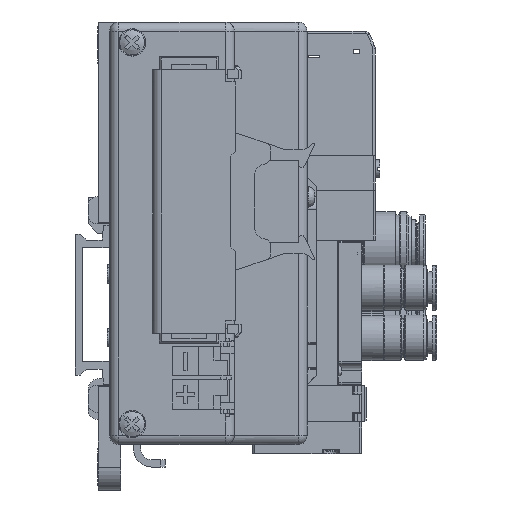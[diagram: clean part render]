
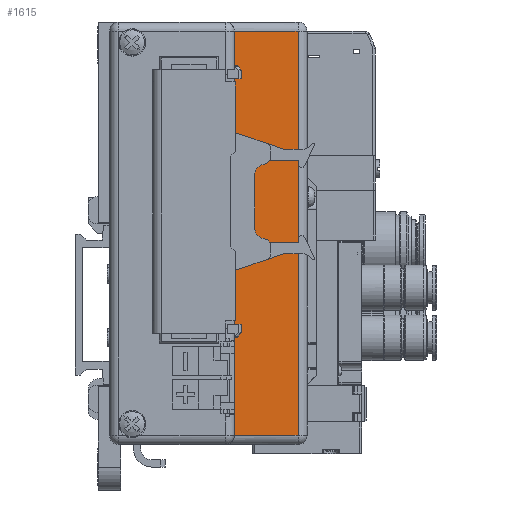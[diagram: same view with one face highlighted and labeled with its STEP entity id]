
A CAD part, left-side view. The second image highlights one B-rep face of the part: STEP entity #1615.
In plain terms, the highlighted planar face has unit normal (-1, 0, 0).
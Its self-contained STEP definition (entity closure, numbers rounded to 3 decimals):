
#1615=ADVANCED_FACE('',(#10417),#10416,.F.);
#10416=PLANE('',#28644);
#10417=FACE_OUTER_BOUND('',#28645,.T.);
#28641=CARTESIAN_POINT('',(20.,-50.4,69.1));
#28642=DIRECTION('',(1.,0.,0.));
#28643=DIRECTION('',(0.,0.,-1.));
#28644=AXIS2_PLACEMENT_3D('',#28641,#28642,#28643);
#28645=EDGE_LOOP('',(#41317,#41318,#41319,#41320));
#41317=ORIENTED_EDGE('',*,*,#49976,.T.);
#41318=ORIENTED_EDGE('',*,*,#50100,.T.);
#41319=ORIENTED_EDGE('',*,*,#50109,.T.);
#41320=ORIENTED_EDGE('',*,*,#50112,.T.);
#49976=EDGE_CURVE('',#62856,#62849,#62857,.T.);
#50100=EDGE_CURVE('',#62849,#63707,#63714,.T.);
#50109=EDGE_CURVE('',#63707,#63766,#63773,.T.);
#50112=EDGE_CURVE('',#63766,#62856,#63791,.T.);
#62849=VERTEX_POINT('',#97738);
#62856=VERTEX_POINT('',#97742);
#62857=LINE('',#97743,#97744);
#63707=VERTEX_POINT('',#98251);
#63714=LINE('',#98256,#98257);
#63766=VERTEX_POINT('',#98286);
#63773=LINE('',#98291,#98292);
#63791=LINE('',#98302,#98303);
#97738=CARTESIAN_POINT('',(20.,-35.,-28.8));
#97742=CARTESIAN_POINT('',(20.,-35.,60.2));
#97743=CARTESIAN_POINT('',(20.,-35.,60.2));
#97744=VECTOR('',#97745,89.);
#97745=DIRECTION('',(0.,0.,-1.));
#98251=CARTESIAN_POINT('',(20.,-49.,-28.8));
#98256=CARTESIAN_POINT('',(20.,-35.,-28.8));
#98257=VECTOR('',#98258,14.);
#98258=DIRECTION('',(0.,-1.,0.));
#98286=CARTESIAN_POINT('',(20.,-49.,60.2));
#98291=CARTESIAN_POINT('',(20.,-49.,-28.8));
#98292=VECTOR('',#98293,89.);
#98293=DIRECTION('',(0.,0.,1.));
#98302=CARTESIAN_POINT('',(20.,-49.,60.2));
#98303=VECTOR('',#98304,14.);
#98304=DIRECTION('',(0.,1.,0.));
